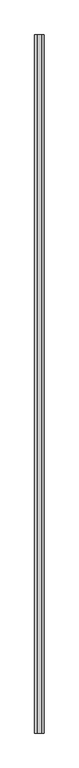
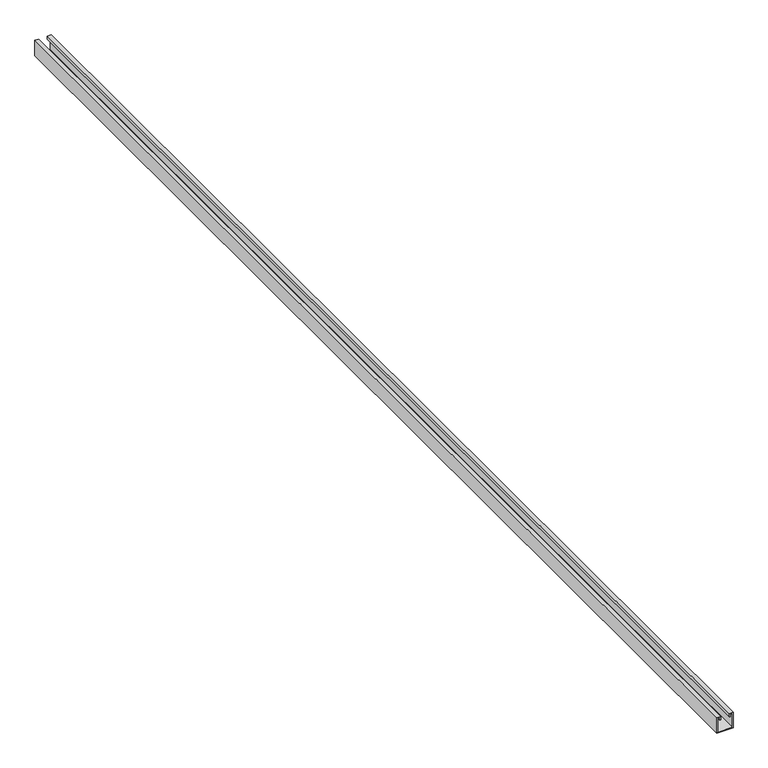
"""IFC4 building model written with IfcOpenShell, lengths in millimetres: proxy geometry, P41-3S_Profile-Basorfix : Basorfix P41-3S 41x41x2  D13 3M GC."""

from ifc_helpers import new_model, si_unit, frame, origin, place, context, project, spatial, polyline, outline, extrude, source, transform, mapped, element, save


def generic_models_1707270b(model_context):
    return source(origin(), model_context, "Body", "SweptSolid", [
        extrude(outline(polyline([(41.0, -20.5), (0.0, -20.5), (0.0, 20.5), (41.0, 20.5), (41.0, 11.0), (32.5, 11.0), (32.5, 13.0), (39.0, 13.0), (39.0, 18.5), (2.0, 18.5), (2.0, -18.5), (39.0, -18.5), (39.0, -13.0), (32.5, -13.0), (32.5, -11.0), (41.0, -11.0), (41.0, -20.5)])), frame((0.0, -1500.0, 0.0), z_axis=(0.0, 1.0, 0.0), x_axis=(0.0, 0.0, 1.0)), (0.0, 0.0, 1.0), 3000.0),
    ])


if __name__ == "__main__":
    model = new_model("IFC4")
    model_context = context("Model", 3, world=origin())
    ifc_project = project(units=[si_unit("LENGTHUNIT", "METRE", prefix="MILLI")], contexts=[model_context])
    site = spatial("IfcSite", under=ifc_project)
    building = spatial("IfcBuilding", under=site)
    placement = place(None, origin())
    generic_models_shape = generic_models_1707270b(model_context)
    element("IfcBuildingElementProxy", 1, Name="P41-3S_Profile-Basorfix : Basorfix P41-3S 41x41x2  D13 3M GC", ObjectType="P41-3S_Profile-Basorfix : Basorfix P41-3S 41x41x2  D13 3M GC", at=placement, inside=building, context=model_context, shape_type="MappedRepresentation", body=[
        mapped(generic_models_shape, transform((0.0, 0.0, 0.0), x_axis=(1.0, 0.0, 0.0), y_axis=(0.0, 1.0, 0.0), z_axis=(0.0, 0.0, 1.0))),
    ])
    save(model, "model.ifc")
